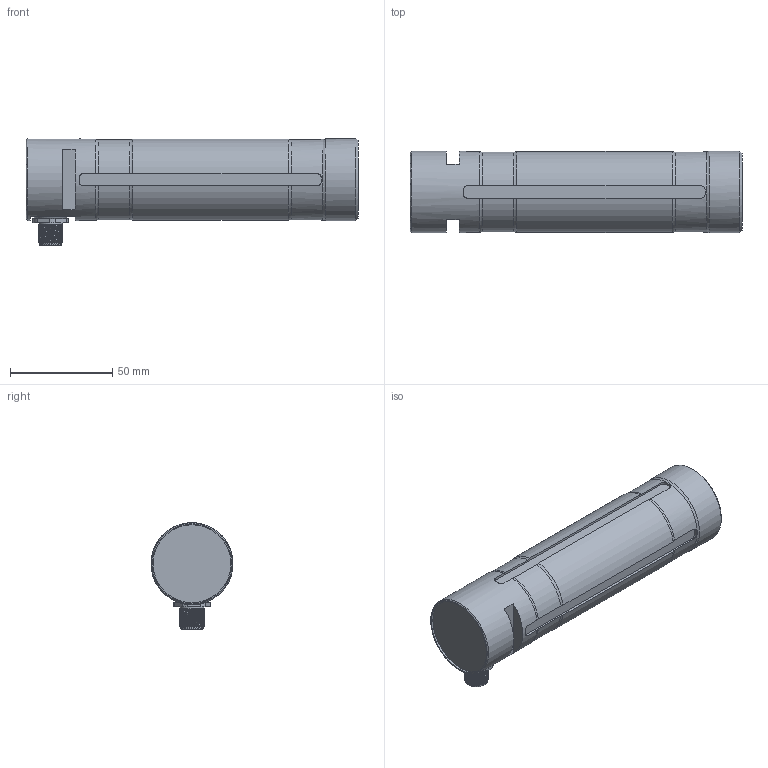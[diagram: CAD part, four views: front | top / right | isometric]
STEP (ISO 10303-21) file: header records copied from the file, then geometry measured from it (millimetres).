
FILE_DESCRIPTION(/* description */ ('Alibre Inc.'),/* implementation_level */ '2;1');
FILE_NAME(/* name */ 'export-73C3821C-00B5-43E6-A85A-24FDB42CDA11',/* time_stamp */ '2019-07-11T12:13:54+02:00',/* author */ (''),/* organization */ (''),/* preprocessor_version */ 'ST-DEVELOPER v17',/* originating_system */ 'Alibre',/* authorisation */ '');
FILE_SCHEMA (('CONFIG_CONTROL_DESIGN'));
Length unit declared in the file: centimetre
Products named in the file (3): ID_1; ID_2
Bounding box: 162 x 40 x 52 mm (x, y, z)
Volume: 255180.5 mm3; surface area: 99933 mm2
Topology: 6 solids, 7 shells, 240 faces, 610 edges, 395 vertices
Faces by surface type: plane 118, cylinder 76, bspline 23, torus 15, cone 8
Full cylindrical faces by diameter (mm): 0.5 x8, 8 x2, 10 x1, 11 x1, 11.5 x1, 13 x2, 14.5 x1, 38 x1, 39.4 x1, 40 x2
Entity records: 17134 total; most frequent: CARTESIAN_POINT 11916, ORIENTED_EDGE 1136, DIRECTION 760, EDGE_CURVE 561, VERTEX_POINT 376, AXIS2_PLACEMENT_3D 295, EDGE_LOOP 293, FACE_BOUND 293
